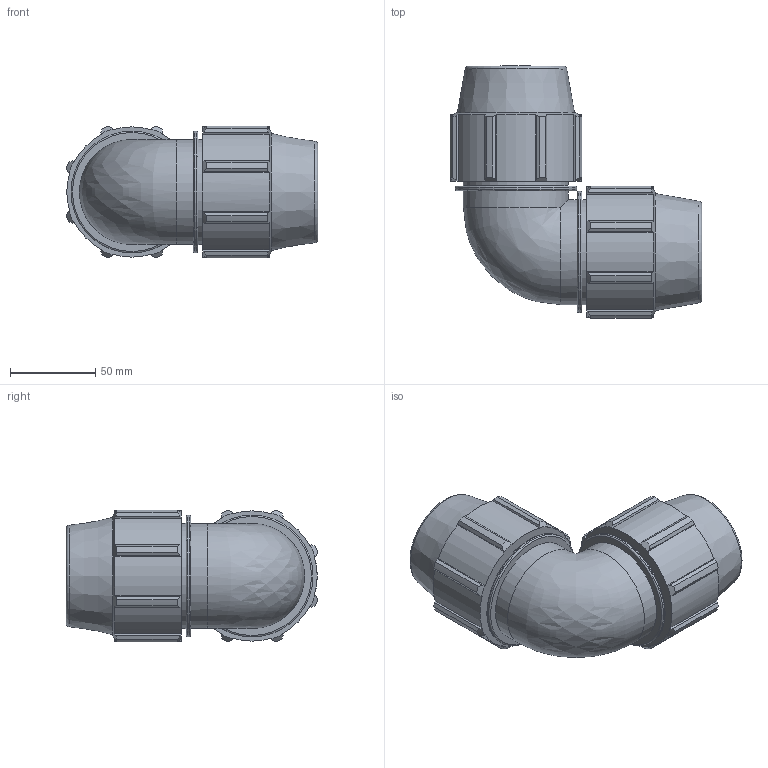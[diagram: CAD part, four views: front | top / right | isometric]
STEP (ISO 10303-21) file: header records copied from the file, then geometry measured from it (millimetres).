
FILE_DESCRIPTION(/* description */ ('PLASSON 90° ELBOW 1 1/4'''' - 1 1/4'''''),/* implementation_level */ '2;1');
FILE_NAME(/* name */ 'C:\Dropbox\KIMPROJECTS-Inventor 2019\99-16-3568-Processing Inch\ASTM Compression 2021\0705M0\0705M0013.ipt.stp',/* time_stamp */ '2021-08-26T12:31:55+03:00',/* author */ ('KIM'),/* organization */ (''),/* preprocessor_version */ 'ST-DEVELOPER v17.2',/* originating_system */ 'Autodesk Inventor 2019',/* authorisation */ '');
FILE_SCHEMA (('AUTOMOTIVE_DESIGN { 1 0 10303 214 3 1 1 }'));
Length unit declared in the file: inch
Products named in the file (1): 0705M0013
Bounding box: 147.56 x 147.56 x 77.2 mm (x, y, z)
Volume: 492457 mm3; surface area: 85665 mm2
Topology: 1 solids, 1 shells, 148 faces, 436 edges, 298 vertices
Faces by surface type: plane 76, cylinder 40, cone 24, torus 7, bspline 1
Full cylindrical faces by diameter (mm): 42.1 x2, 61.531 x4, 71.377 x2
Entity records: 5177 total; most frequent: CARTESIAN_POINT 1035, ORIENTED_EDGE 868, DIRECTION 828, EDGE_CURVE 434, AXIS2_PLACEMENT_3D 310, VERTEX_POINT 298, LINE 208, VECTOR 208
